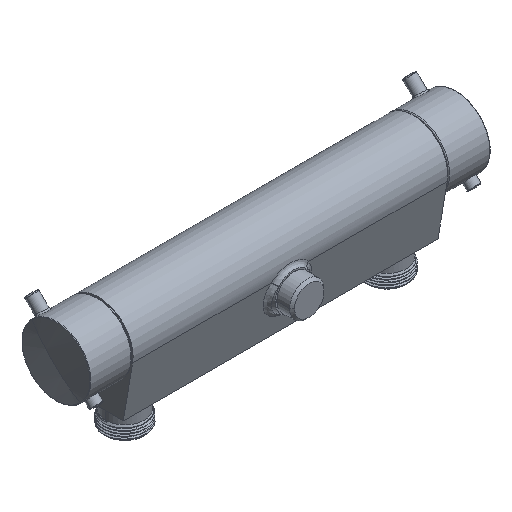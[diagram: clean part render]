
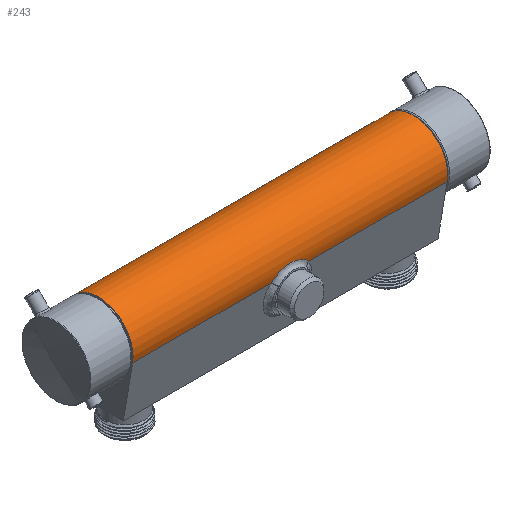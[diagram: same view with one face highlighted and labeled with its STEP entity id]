
A CAD part, isometric view. The second image highlights one B-rep face of the part: STEP entity #243.
In plain terms, the highlighted cylindrical face has radius 21 mm (diameter 42 mm), a partial arc.
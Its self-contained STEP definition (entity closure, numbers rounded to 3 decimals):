
#39=DIRECTION('',(1.,0.,0.));
#40=VECTOR('',#39,84.606);
#41=CARTESIAN_POINT('',(-96.,-20.702,33.474));
#42=LINE('',#41,#40);
#43=DIRECTION('',(-1.,0.,0.));
#44=VECTOR('',#43,192.);
#45=CARTESIAN_POINT('',(96.,20.702,33.474));
#46=LINE('',#45,#44);
#47=DIRECTION('',(1.,0.,0.));
#48=VECTOR('',#47,84.606);
#49=CARTESIAN_POINT('',(11.394,-20.702,33.474));
#50=LINE('',#49,#48);
#51=CARTESIAN_POINT('',(-11.394,-20.702,33.474));
#52=CARTESIAN_POINT('',(-10.72,-20.829,34.22));
#53=CARTESIAN_POINT('',(-9.561,-20.941,35.242));
#54=CARTESIAN_POINT('',(-7.801,-20.996,36.381));
#55=CARTESIAN_POINT('',(-6.372,-21.003,37.105));
#56=CARTESIAN_POINT('',(-4.865,-20.991,37.68));
#57=CARTESIAN_POINT('',(-3.297,-20.972,38.1));
#58=CARTESIAN_POINT('',(-1.664,-20.957,38.358));
#59=CARTESIAN_POINT('',(-0.02,-20.95,38.447));
#60=CARTESIAN_POINT('',(1.624,-20.956,38.363));
#61=CARTESIAN_POINT('',(3.258,-20.971,38.108));
#62=CARTESIAN_POINT('',(4.829,-20.991,37.692));
#63=CARTESIAN_POINT('',(6.341,-21.003,37.118));
#64=CARTESIAN_POINT('',(7.776,-20.997,36.396));
#65=CARTESIAN_POINT('',(9.544,-20.943,35.258));
#66=CARTESIAN_POINT('',(10.71,-20.831,34.23));
#67=CARTESIAN_POINT('',(11.394,-20.702,33.474));
#77=CARTESIAN_POINT('',(-96.,0.,37.));
#78=DIRECTION('',(-1.,0.,0.));
#79=DIRECTION('',(0.,-0.986,-0.168));
#80=AXIS2_PLACEMENT_3D('',#77,#78,#79);
#94=CARTESIAN_POINT('',(96.,0.,37.));
#95=DIRECTION('',(-1.,0.,0.));
#96=DIRECTION('',(0.,-0.986,-0.168));
#97=AXIS2_PLACEMENT_3D('',#94,#95,#96);
#175=CARTESIAN_POINT('',(96.,20.702,33.474));
#176=VERTEX_POINT('',#175);
#177=CARTESIAN_POINT('',(96.,-20.702,33.474));
#178=VERTEX_POINT('',#177);
#179=CARTESIAN_POINT('',(-96.,-20.702,33.474));
#180=CARTESIAN_POINT('',(-11.394,-20.702,33.474));
#181=VERTEX_POINT('',#179);
#182=VERTEX_POINT('',#180);
#183=CARTESIAN_POINT('',(11.394,-20.702,33.474));
#184=VERTEX_POINT('',#183);
#185=CARTESIAN_POINT('',(-96.,20.702,33.474));
#186=VERTEX_POINT('',#185);
#226=CARTESIAN_POINT('',(96.,0.,37.));
#227=DIRECTION('',(-1.,0.,0.));
#228=DIRECTION('',(0.,1.,0.));
#229=AXIS2_PLACEMENT_3D('',#226,#227,#228);
#230=CYLINDRICAL_SURFACE('',#229,21.);
#231=ORIENTED_EDGE('',*,*,#219,.F.);
#233=ORIENTED_EDGE('',*,*,#232,.T.);
#235=ORIENTED_EDGE('',*,*,#234,.F.);
#237=ORIENTED_EDGE('',*,*,#236,.F.);
#238=ORIENTED_EDGE('',*,*,#212,.F.);
#240=ORIENTED_EDGE('',*,*,#239,.F.);
#241=EDGE_LOOP('',(#231,#233,#235,#237,#238,#240));
#242=FACE_OUTER_BOUND('',#241,.F.);
#243=ADVANCED_FACE('',(#242),#230,.T.);
#68=B_SPLINE_CURVE_WITH_KNOTS('',3,(#51,#52,#53,#54,#55,#56,#57,#58,#59,#60,#61,
#62,#63,#64,#65,#66,#67),.UNSPECIFIED.,.F.,.F.,(4,1,1,1,1,1,1,1,1,1,1,1,1,1,4),(
0.,0.125,0.188,0.25,0.313,0.375,0.438,0.5,0.563,0.625,
0.688,0.75,0.813,0.875,1.),.UNSPECIFIED.);
#81=CIRCLE('',#80,21.);
#98=CIRCLE('',#97,21.);
#212=EDGE_CURVE('',#184,#178,#50,.T.);
#219=EDGE_CURVE('',#181,#182,#42,.T.);
#232=EDGE_CURVE('',#181,#186,#81,.T.);
#234=EDGE_CURVE('',#176,#186,#46,.T.);
#236=EDGE_CURVE('',#178,#176,#98,.T.);
#239=EDGE_CURVE('',#182,#184,#68,.T.);
